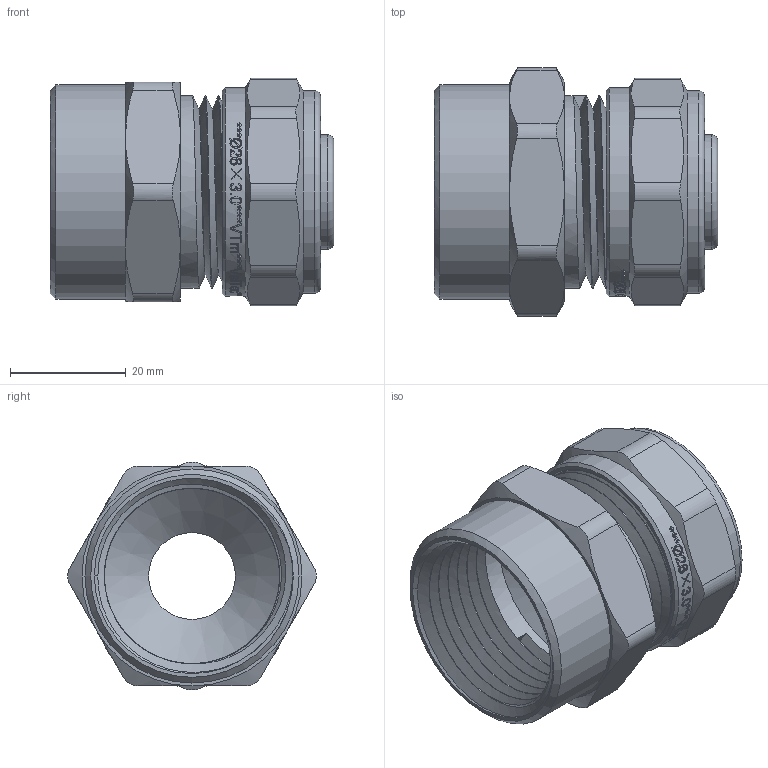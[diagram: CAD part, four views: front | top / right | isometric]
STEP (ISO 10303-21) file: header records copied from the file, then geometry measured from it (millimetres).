
FILE_DESCRIPTION(/* description */ (''),/* implementation_level */ '2;1');
FILE_NAME(/* name */ 'E:\Артём\00000\Работа удаленка\Обжимные фитинги\VTm.302.N.002606.stp',/* time_stamp */ '2020-06-08T13:24:08+03:00',/* author */ ('BeN_GaN'),/* organization */ (''),/* preprocessor_version */ 'ST-DEVELOPER v18',/* originating_system */ 'Autodesk Inventor 2020',/* authorisation */ '');
FILE_SCHEMA (('AUTOMOTIVE_DESIGN { 1 0 10303 214 3 1 1 }'));
Length unit declared in the file: millimetre
Products named in the file (1): VTm.302.N.002605_1
Bounding box: 49 x 42.95 x 39.39 mm (x, y, z)
Volume: 24709.5 mm3; surface area: 20240.7 mm2
Topology: 1 solids, 1 shells, 695 faces, 1963 edges, 1326 vertices
Faces by surface type: bspline 372, plane 170, cylinder 99, cone 30, torus 24
Full cylindrical faces by diameter (mm): 15 x1, 17.4 x2, 19.8 x5, 24.516 x4, 25.435 x5, 26.2 x1, 26.7 x1, 28.5 x1, 28.7 x2, 30.3 x6, 30.5 x1, 33.3 x2, 34.9 x9, 35 x1, 36 x1, 37 x1
Entity records: 30945 total; most frequent: CARTESIAN_POINT 15432, ORIENTED_EDGE 3926, DIRECTION 2028, EDGE_CURVE 1963, VERTEX_POINT 1326, B_SPLINE_CURVE_WITH_KNOTS 845, LINE 776, VECTOR 776
